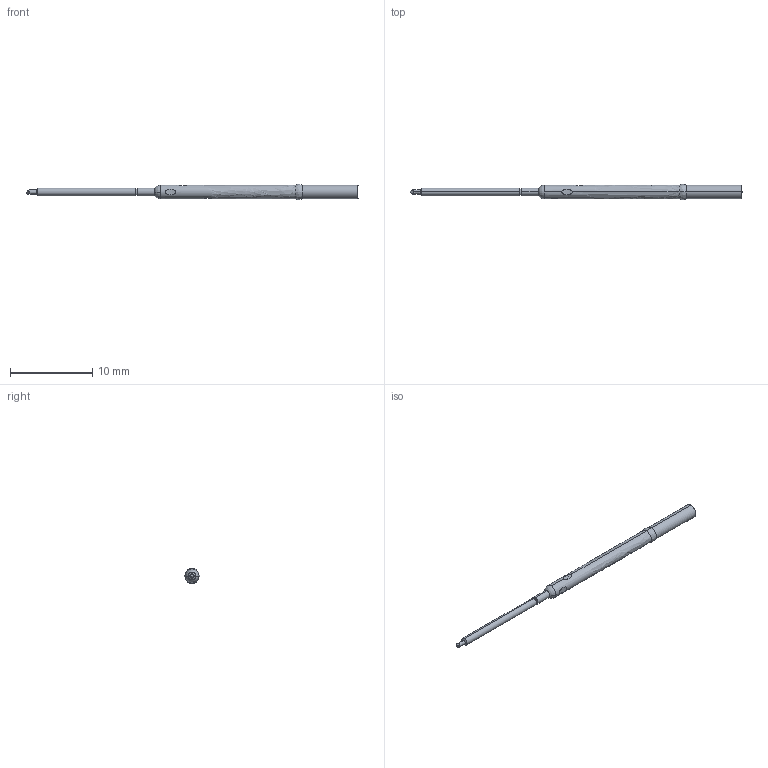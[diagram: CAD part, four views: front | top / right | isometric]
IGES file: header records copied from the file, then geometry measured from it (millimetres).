
Start section: SolidWorks IGES file using analytic representation for surfaces
Global section: file name: Z:\probe solid model mockups\Solidworks models\DER-100\DER-0100T RECD.IGS; native system: SolidWorks 2006 by SolidWorks Corporation; preprocessor: SolidWorks 2006 by SolidWorks Corporation; author: tsakatani; date: 071218.090450; units: inch
Bounding box: 40.48 x 1.86 x 1.88 mm (x, y, z)
Surface area: 286.2 mm2 (no closed solid volume)
Topology: 0 solids, 0 shells, 39 faces, 410 edges, 410 vertices
Faces by surface type: revolution 29, bspline 10
